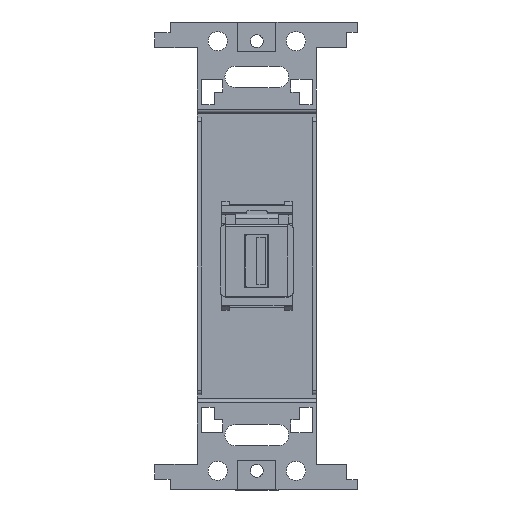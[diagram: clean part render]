
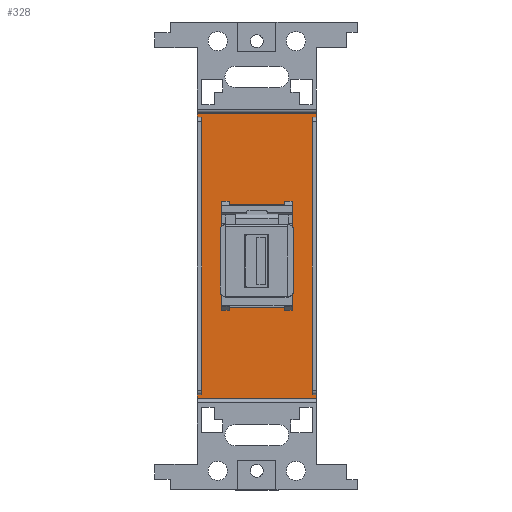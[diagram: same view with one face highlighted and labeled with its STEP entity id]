
A CAD part, top view. The second image highlights one B-rep face of the part: STEP entity #328.
In plain terms, the highlighted planar face has unit normal (0, 0, 1).
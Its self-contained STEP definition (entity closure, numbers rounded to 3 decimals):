
#71 = VERTEX_POINT('',#72);
#72 = CARTESIAN_POINT('',(-14.,33.5,1.));
#205 = VERTEX_POINT('',#206);
#206 = CARTESIAN_POINT('',(-14.,-33.5,1.));
#212 = EDGE_CURVE('',#213,#205,#215,.T.);
#213 = VERTEX_POINT('',#214);
#214 = CARTESIAN_POINT('',(-14.,-32.6,1.));
#215 = LINE('',#216,#217);
#216 = CARTESIAN_POINT('',(-14.,34.5,1.));
#217 = VECTOR('',#218,1.);
#218 = DIRECTION('',(0.,-1.,0.));
#255 = VERTEX_POINT('',#256);
#256 = CARTESIAN_POINT('',(-14.,32.6,1.));
#262 = EDGE_CURVE('',#71,#255,#263,.T.);
#263 = LINE('',#264,#265);
#264 = CARTESIAN_POINT('',(-14.,34.5,1.));
#265 = VECTOR('',#266,1.);
#266 = DIRECTION('',(0.,-1.,0.));
#286 = VERTEX_POINT('',#287);
#287 = CARTESIAN_POINT('',(14.,33.5,1.));
#293 = EDGE_CURVE('',#71,#286,#294,.T.);
#294 = LINE('',#295,#296);
#295 = CARTESIAN_POINT('',(-14.,33.5,1.));
#296 = VECTOR('',#297,1.);
#297 = DIRECTION('',(1.,0.,0.));
#328 = ADVANCED_FACE('',(#329,#402),#436,.T.);
#329 = FACE_BOUND('',#330,.T.);
#330 = EDGE_LOOP('',(#331,#339,#340,#348,#356,#364,#372,#380,#386,#387,
    #388,#396));
#331 = ORIENTED_EDGE('',*,*,#332,.F.);
#332 = EDGE_CURVE('',#213,#333,#335,.T.);
#333 = VERTEX_POINT('',#334);
#334 = CARTESIAN_POINT('',(-13.,-32.6,1.));
#335 = LINE('',#336,#337);
#336 = CARTESIAN_POINT('',(-14.,-32.6,1.));
#337 = VECTOR('',#338,1.);
#338 = DIRECTION('',(1.,0.,0.));
#339 = ORIENTED_EDGE('',*,*,#212,.T.);
#340 = ORIENTED_EDGE('',*,*,#341,.F.);
#341 = EDGE_CURVE('',#342,#205,#344,.T.);
#342 = VERTEX_POINT('',#343);
#343 = CARTESIAN_POINT('',(14.,-33.5,1.));
#344 = LINE('',#345,#346);
#345 = CARTESIAN_POINT('',(14.,-33.5,1.));
#346 = VECTOR('',#347,1.);
#347 = DIRECTION('',(-1.,0.,0.));
#348 = ORIENTED_EDGE('',*,*,#349,.T.);
#349 = EDGE_CURVE('',#342,#350,#352,.T.);
#350 = VERTEX_POINT('',#351);
#351 = CARTESIAN_POINT('',(14.,-32.6,1.));
#352 = LINE('',#353,#354);
#353 = CARTESIAN_POINT('',(14.,-34.5,1.));
#354 = VECTOR('',#355,1.);
#355 = DIRECTION('',(0.,1.,0.));
#356 = ORIENTED_EDGE('',*,*,#357,.F.);
#357 = EDGE_CURVE('',#358,#350,#360,.T.);
#358 = VERTEX_POINT('',#359);
#359 = CARTESIAN_POINT('',(13.,-32.6,1.));
#360 = LINE('',#361,#362);
#361 = CARTESIAN_POINT('',(13.,-32.6,1.));
#362 = VECTOR('',#363,1.);
#363 = DIRECTION('',(1.,0.,0.));
#364 = ORIENTED_EDGE('',*,*,#365,.F.);
#365 = EDGE_CURVE('',#366,#358,#368,.T.);
#366 = VERTEX_POINT('',#367);
#367 = CARTESIAN_POINT('',(13.,32.6,1.));
#368 = LINE('',#369,#370);
#369 = CARTESIAN_POINT('',(13.,32.6,1.));
#370 = VECTOR('',#371,1.);
#371 = DIRECTION('',(0.,-1.,0.));
#372 = ORIENTED_EDGE('',*,*,#373,.F.);
#373 = EDGE_CURVE('',#374,#366,#376,.T.);
#374 = VERTEX_POINT('',#375);
#375 = CARTESIAN_POINT('',(14.,32.6,1.));
#376 = LINE('',#377,#378);
#377 = CARTESIAN_POINT('',(14.,32.6,1.));
#378 = VECTOR('',#379,1.);
#379 = DIRECTION('',(-1.,0.,0.));
#380 = ORIENTED_EDGE('',*,*,#381,.T.);
#381 = EDGE_CURVE('',#374,#286,#382,.T.);
#382 = LINE('',#383,#384);
#383 = CARTESIAN_POINT('',(14.,-34.5,1.));
#384 = VECTOR('',#385,1.);
#385 = DIRECTION('',(0.,1.,0.));
#386 = ORIENTED_EDGE('',*,*,#293,.F.);
#387 = ORIENTED_EDGE('',*,*,#262,.T.);
#388 = ORIENTED_EDGE('',*,*,#389,.F.);
#389 = EDGE_CURVE('',#390,#255,#392,.T.);
#390 = VERTEX_POINT('',#391);
#391 = CARTESIAN_POINT('',(-13.,32.6,1.));
#392 = LINE('',#393,#394);
#393 = CARTESIAN_POINT('',(-13.,32.6,1.));
#394 = VECTOR('',#395,1.);
#395 = DIRECTION('',(-1.,0.,0.));
#396 = ORIENTED_EDGE('',*,*,#397,.F.);
#397 = EDGE_CURVE('',#333,#390,#398,.T.);
#398 = LINE('',#399,#400);
#399 = CARTESIAN_POINT('',(-13.,-32.6,1.));
#400 = VECTOR('',#401,1.);
#401 = DIRECTION('',(0.,1.,0.));
#402 = FACE_BOUND('',#403,.T.);
#403 = EDGE_LOOP('',(#404,#414,#422,#430));
#404 = ORIENTED_EDGE('',*,*,#405,.F.);
#405 = EDGE_CURVE('',#406,#408,#410,.T.);
#406 = VERTEX_POINT('',#407);
#407 = CARTESIAN_POINT('',(8.4,12.15,1.));
#408 = VERTEX_POINT('',#409);
#409 = CARTESIAN_POINT('',(-8.4,12.15,1.));
#410 = LINE('',#411,#412);
#411 = CARTESIAN_POINT('',(-4.2,12.15,1.));
#412 = VECTOR('',#413,1.);
#413 = DIRECTION('',(-1.,0.,0.));
#414 = ORIENTED_EDGE('',*,*,#415,.F.);
#415 = EDGE_CURVE('',#416,#406,#418,.T.);
#416 = VERTEX_POINT('',#417);
#417 = CARTESIAN_POINT('',(8.4,-12.15,1.));
#418 = LINE('',#419,#420);
#419 = CARTESIAN_POINT('',(8.4,6.075,1.));
#420 = VECTOR('',#421,1.);
#421 = DIRECTION('',(0.,1.,0.));
#422 = ORIENTED_EDGE('',*,*,#423,.F.);
#423 = EDGE_CURVE('',#424,#416,#426,.T.);
#424 = VERTEX_POINT('',#425);
#425 = CARTESIAN_POINT('',(-8.4,-12.15,1.));
#426 = LINE('',#427,#428);
#427 = CARTESIAN_POINT('',(4.2,-12.15,1.));
#428 = VECTOR('',#429,1.);
#429 = DIRECTION('',(1.,0.,0.));
#430 = ORIENTED_EDGE('',*,*,#431,.F.);
#431 = EDGE_CURVE('',#408,#424,#432,.T.);
#432 = LINE('',#433,#434);
#433 = CARTESIAN_POINT('',(-8.4,-6.075,1.));
#434 = VECTOR('',#435,1.);
#435 = DIRECTION('',(0.,-1.,0.));
#436 = PLANE('',#437);
#437 = AXIS2_PLACEMENT_3D('',#438,#439,#440);
#438 = CARTESIAN_POINT('',(0.,0.,1.));
#439 = DIRECTION('',(0.,0.,1.));
#440 = DIRECTION('',(1.,0.,-0.));
